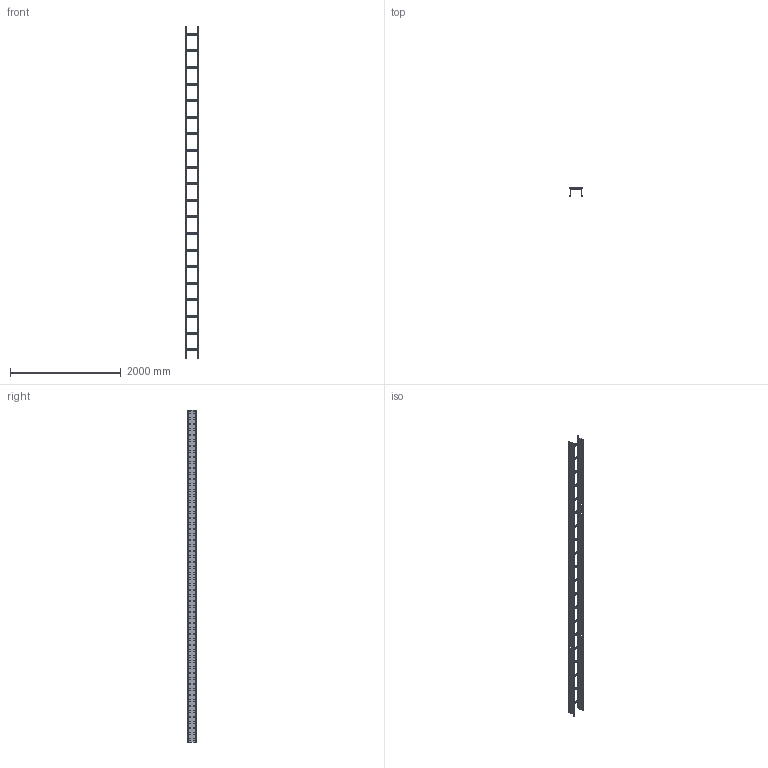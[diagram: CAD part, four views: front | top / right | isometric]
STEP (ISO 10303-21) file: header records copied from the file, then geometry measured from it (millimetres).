
FILE_DESCRIPTION(('Creo Elements/Direct Modeling STEP Export'),'2;1');
FILE_NAME('WP15-20.stp','2016-05-13T13:28:23',(''),(''),'PTC Creo Elements/Direct Modeling STEP processor for AP214 (Solid Model)','PTC Creo Elements/Direct Modeling 19.0C 15-Aug-2015 (C) Parametric Technology GmbH','');
FILE_SCHEMA(('AUTOMOTIVE_DESIGN { 1 0 10303 214 1 1 1 1 }'));
Length unit declared in the file: millimetre
Products named in the file (3): WPSP_02; WPH150; WP15-20-HDG
Assembly tree (22 placements, depth 2):
  WP15-20-HDG
    WPSP_02  x20
    WPH150  x2
Bounding box: 250 x 150 x 6000 mm (x, y, z)
Volume: 4876881.3 mm3; surface area: 5789462.4 mm2
Topology: 22 solids, 22 shells, 2732 faces, 8064 edges, 5376 vertices
Faces by surface type: plane 1812, cylinder 920
Entity records: 23166 total; most frequent: ORIENTED_EDGE 4068, CARTESIAN_POINT 4009, DIRECTION 3547, EDGE_CURVE 2034, VECTOR 1759, LINE 1759, VERTEX_POINT 1356, EDGE_LOOP 1016
